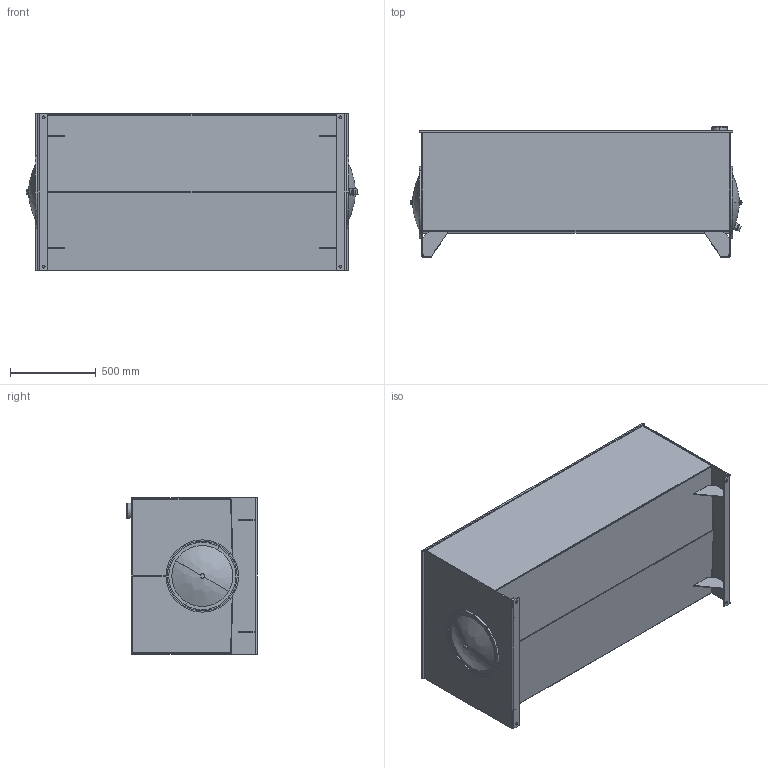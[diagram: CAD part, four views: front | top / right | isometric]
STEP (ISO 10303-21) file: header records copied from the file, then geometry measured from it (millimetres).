
FILE_DESCRIPTION (( 'STEP AP214' ), '1' );
FILE_NAME ('T2-200.STEP', '2022-01-10T12:36:41', ( '' ), ( '' ), 'SwSTEP 2.0', 'SolidWorks 2013', '' );
FILE_SCHEMA (( 'AUTOMOTIVE_DESIGN' ));
Length unit declared in the file: inch
Products named in the file (18): CRUSH WASHER; TL-EC-16; DRAIN; 0.625 - 11 HEX BOLT; 16.00 END COVER WITH DRAIN; 0.625 - 11 BAFFLE NUT; T2-200-GST; T2-200-BDYB; T2-200-BFL; T2-200-BDYA; T2-200; T2-200-EB; T2-200-EA; FILLER RISER; 16.00 GASKET; T2-200-LD; TL-ECD-16; 16.00 END COVER
Assembly tree (24 placements, depth 3):
  T2-200
    T2-200-LD
    T2-200-EA
    T2-200-EB
    T2-200-BDYA
    T2-200-BDYB
    T2-200-BFL
    T2-200-GST  x4
    FILLER RISER
    TL-ECD-16
      16.00 GASKET
      CRUSH WASHER
      0.625 - 11 HEX BOLT
      0.625 - 11 BAFFLE NUT
      16.00 END COVER WITH DRAIN
      DRAIN
    TL-EC-16
      16.00 END COVER
      16.00 GASKET
      CRUSH WASHER
      0.625 - 11 HEX BOLT
      0.625 - 11 BAFFLE NUT
Bounding box: 1938.01 x 762 x 914.4 mm (x, y, z)
Volume: 41522182.7 mm3; surface area: 16234027.8 mm2
Topology: 23 solids, 23 shells, 292 faces, 672 edges, 434 vertices
Faces by surface type: plane 165, cylinder 107, cone 10, bspline 8, torus 2
Entity records: 8559 total; most frequent: CARTESIAN_POINT 1464, DIRECTION 1232, ORIENTED_EDGE 1068, EDGE_CURVE 534, AXIS2_PLACEMENT_3D 460, VERTEX_POINT 342, LINE 312, VECTOR 312
